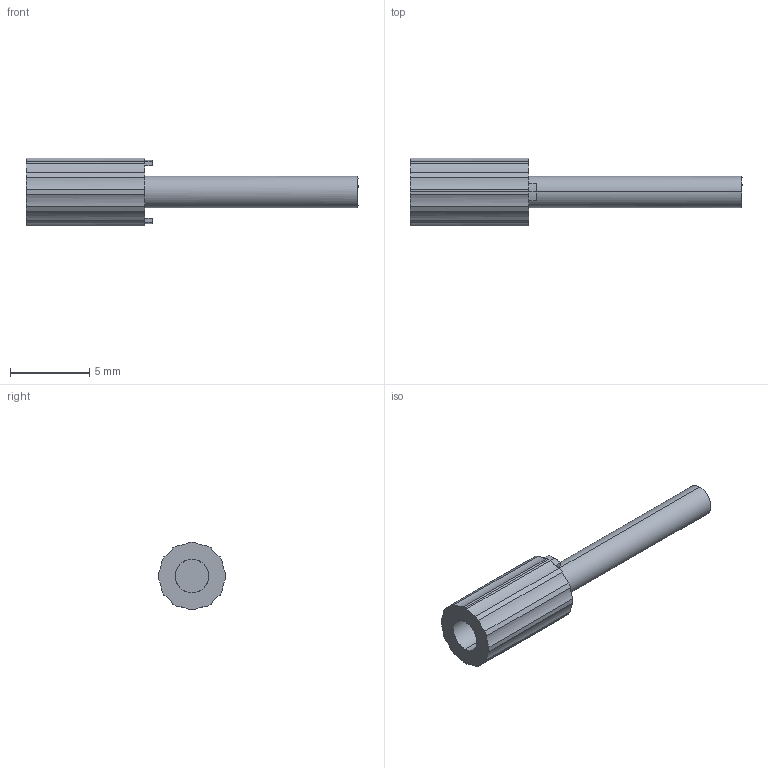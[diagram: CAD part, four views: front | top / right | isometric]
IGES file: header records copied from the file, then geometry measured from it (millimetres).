
Start section: Comment
Global section: file name: 10140260.igs; native system:  By UGS Corp.; preprocessor: XPlus GENERIC/IGES 3.0; author: Author; organization: Title; date: 20100906.114301; units: millimetre
Bounding box: 21 x 4.29 x 4.29 mm (x, y, z)
Surface area: 250.4 mm2 (no closed solid volume)
Topology: 0 solids, 0 shells, 49 faces, 258 edges, 258 vertices
Faces by surface type: bspline 49
